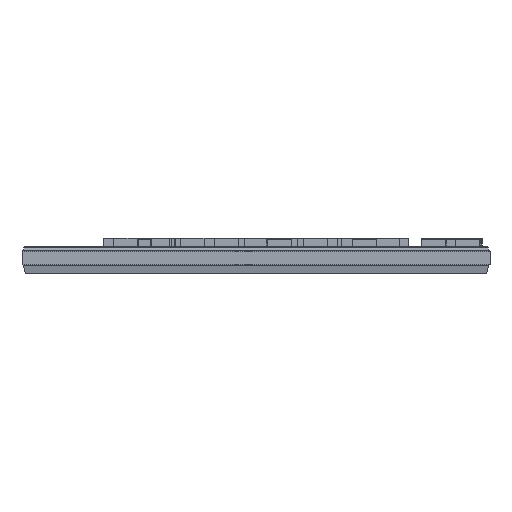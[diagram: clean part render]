
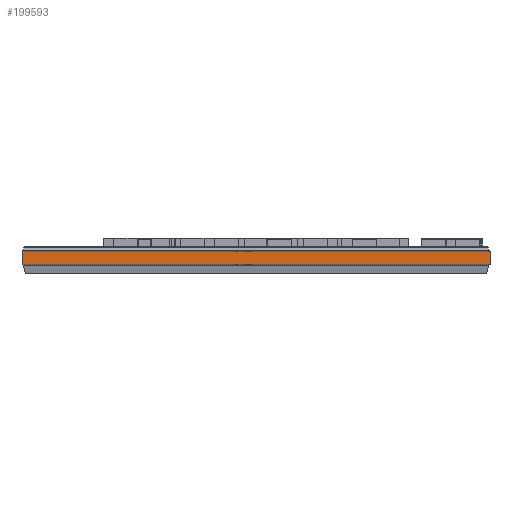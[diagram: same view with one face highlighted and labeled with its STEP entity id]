
A CAD part, left-side view. The second image highlights one B-rep face of the part: STEP entity #199593.
In plain terms, the highlighted planar face has unit normal (-1, 0, 0).
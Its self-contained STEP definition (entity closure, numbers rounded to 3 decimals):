
#125 = CARTESIAN_POINT ( 'NONE',  ( -9.4, 9.4, 1.035 ) ) ;
#14324 = EDGE_LOOP ( 'NONE', ( #20715, #88929, #303884, #70993 ) ) ;
#20715 = ORIENTED_EDGE ( 'NONE', *, *, #312899, .T. ) ;
#20868 = LINE ( 'NONE', #251183, #89367 ) ;
#30063 = DIRECTION ( 'NONE',  ( 1., 0., 0. ) ) ;
#43102 = LINE ( 'NONE', #125, #120518 ) ;
#46609 = CARTESIAN_POINT ( 'NONE',  ( -9.4, 9.4, 0.37 ) ) ;
#66364 = CARTESIAN_POINT ( 'NONE',  ( -9.4, -9.4, 0.897 ) ) ;
#70993 = ORIENTED_EDGE ( 'NONE', *, *, #178468, .T. ) ;
#74168 = VECTOR ( 'NONE', #315080, 1000. ) ;
#78958 = AXIS2_PLACEMENT_3D ( 'NONE', #204438, #30063, #233744 ) ;
#79678 = CARTESIAN_POINT ( 'NONE',  ( -9.4, 9.4, 0.37 ) ) ;
#87446 = PLANE ( 'NONE',  #78958 ) ;
#88929 = ORIENTED_EDGE ( 'NONE', *, *, #176295, .T. ) ;
#89367 = VECTOR ( 'NONE', #280572, 1000. ) ;
#93260 = FACE_OUTER_BOUND ( 'NONE', #14324, .T. ) ;
#99326 = CARTESIAN_POINT ( 'NONE',  ( -9.4, 9.4, 0.897 ) ) ;
#116210 = DIRECTION ( 'NONE',  ( 0., 0., -1. ) ) ;
#120518 = VECTOR ( 'NONE', #116210, 1000. ) ;
#129744 = CARTESIAN_POINT ( 'NONE',  ( -9.4, 9.4, 0.897 ) ) ;
#151582 = LINE ( 'NONE', #79678, #74168 ) ;
#157500 = VERTEX_POINT ( 'NONE', #129744 ) ;
#157799 = DIRECTION ( 'NONE',  ( 0., 1., 0. ) ) ;
#176177 = VERTEX_POINT ( 'NONE', #46609 ) ;
#176295 = EDGE_CURVE ( 'NONE', #176177, #219798, #151582, .T. ) ;
#178468 = EDGE_CURVE ( 'NONE', #232297, #157500, #248199, .T. ) ;
#199593 = ADVANCED_FACE ( 'NONE', ( #93260 ), #87446, .F. ) ;
#204438 = CARTESIAN_POINT ( 'NONE',  ( -9.4, -9.4, 1.035 ) ) ;
#219798 = VERTEX_POINT ( 'NONE', #246403 ) ;
#232297 = VERTEX_POINT ( 'NONE', #66364 ) ;
#233744 = DIRECTION ( 'NONE',  ( 0., 0., -1. ) ) ;
#246403 = CARTESIAN_POINT ( 'NONE',  ( -9.4, -9.4, 0.37 ) ) ;
#248199 = LINE ( 'NONE', #99326, #316511 ) ;
#251183 = CARTESIAN_POINT ( 'NONE',  ( -9.4, -9.4, 1.035 ) ) ;
#280572 = DIRECTION ( 'NONE',  ( 0., 0., -1. ) ) ;
#303884 = ORIENTED_EDGE ( 'NONE', *, *, #315105, .F. ) ;
#312899 = EDGE_CURVE ( 'NONE', #157500, #176177, #43102, .T. ) ;
#315080 = DIRECTION ( 'NONE',  ( 0., -1., 0. ) ) ;
#315105 = EDGE_CURVE ( 'NONE', #232297, #219798, #20868, .T. ) ;
#316511 = VECTOR ( 'NONE', #157799, 1000. ) ;
